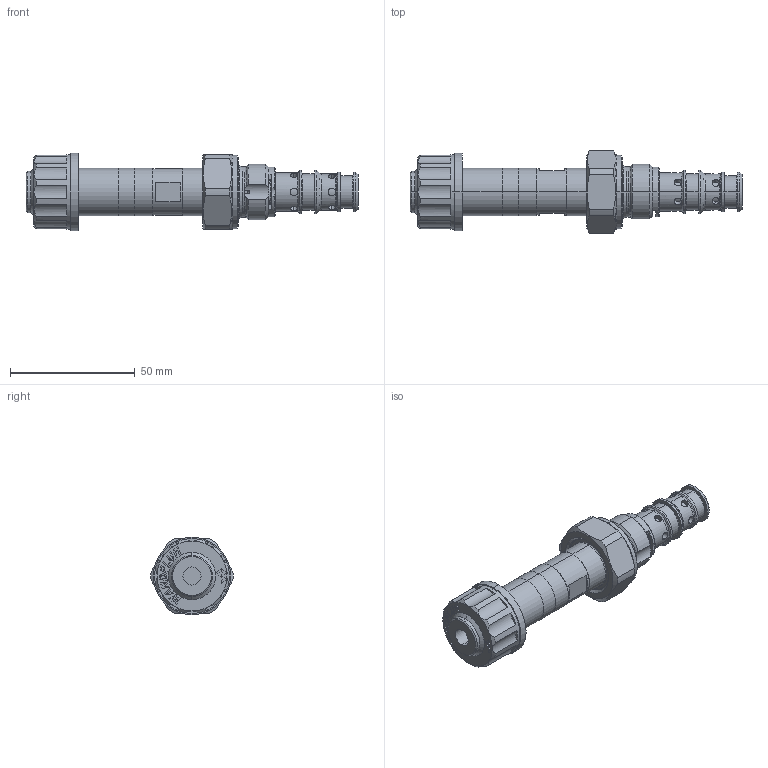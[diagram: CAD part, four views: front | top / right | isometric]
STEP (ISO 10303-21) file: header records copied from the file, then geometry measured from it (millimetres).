
FILE_DESCRIPTION (( 'STEP AP214' ), '1' );
FILE_NAME ('MVPPU10-X5.STEP', '2017-03-24T13:08:09', ( '' ), ( '' ), 'SwSTEP 2.0', 'SolidWorks 2016', '' );
FILE_SCHEMA (( 'AUTOMOTIVE_DESIGN' ));
Length unit declared in the file: millimetre
Products named in the file (1): MVPPU10-X5
Bounding box: 133.1 x 32.98 x 31 mm (x, y, z)
Volume: 46130.6 mm3; surface area: 14998.8 mm2
Topology: 2 solids, 2 shells, 406 faces, 1002 edges, 630 vertices
Faces by surface type: plane 159, cylinder 128, cone 70, torus 33, bspline 16
Entity records: 18633 total; most frequent: CARTESIAN_POINT 4869, ORIENTED_EDGE 2000, DIRECTION 1905, EDGE_CURVE 1000, AXIS2_PLACEMENT_3D 706, VERTEX_POINT 630, VECTOR 493, LINE 493
